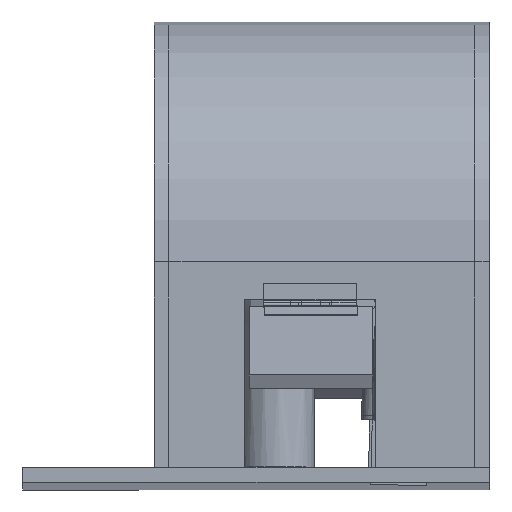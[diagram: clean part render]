
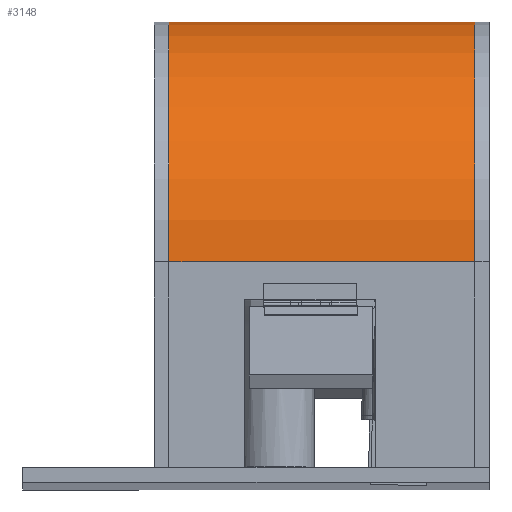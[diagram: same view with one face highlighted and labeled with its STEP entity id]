
A CAD part, front view. The second image highlights one B-rep face of the part: STEP entity #3148.
In plain terms, the highlighted cylindrical face has radius 130 mm (diameter 260 mm), a partial arc.
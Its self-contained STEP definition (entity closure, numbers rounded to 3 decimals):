
#279=CYLINDRICAL_SURFACE('',#4167,130.);
#361=CIRCLE('',#4168,130.);
#362=CIRCLE('',#4169,130.);
#931=ORIENTED_EDGE('',*,*,#1460,.T.);
#932=ORIENTED_EDGE('',*,*,#1417,.F.);
#933=ORIENTED_EDGE('',*,*,#1461,.F.);
#934=ORIENTED_EDGE('',*,*,#1458,.T.);
#1417=EDGE_CURVE('',#1737,#1738,#2004,.T.);
#1458=EDGE_CURVE('',#1769,#1768,#2043,.T.);
#1460=EDGE_CURVE('',#1768,#1738,#361,.T.);
#1461=EDGE_CURVE('',#1769,#1737,#362,.T.);
#1737=VERTEX_POINT('',#6790);
#1738=VERTEX_POINT('',#6792);
#1768=VERTEX_POINT('',#6871);
#1769=VERTEX_POINT('',#6873);
#2004=LINE('',#6791,#2283);
#2043=LINE('',#6872,#2322);
#2283=VECTOR('',#4848,1000.);
#2322=VECTOR('',#4909,1000.);
#2569=EDGE_LOOP('',(#931,#932,#933,#934));
#2818=FACE_BOUND('',#2569,.T.);
#3148=ADVANCED_FACE('',(#2818),#279,.T.);
#4167=AXIS2_PLACEMENT_3D('',#6875,#4911,#4912);
#4168=AXIS2_PLACEMENT_3D('',#6876,#4913,#4914);
#4169=AXIS2_PLACEMENT_3D('',#6877,#4915,#4916);
#4848=DIRECTION('',(0.,-1.,0.));
#4909=DIRECTION('',(0.,-1.,0.));
#4911=DIRECTION('',(0.,-1.,0.));
#4912=DIRECTION('',(0.,0.,-1.));
#4913=DIRECTION('',(0.,1.,0.));
#4914=DIRECTION('',(-1.,0.,0.));
#4915=DIRECTION('',(0.,1.,0.));
#4916=DIRECTION('',(-1.,0.,0.));
#6790=CARTESIAN_POINT('',(175.,163.59,-10.));
#6791=CARTESIAN_POINT('',(175.,163.59,-10.));
#6792=CARTESIAN_POINT('',(175.,0.,-10.));
#6871=CARTESIAN_POINT('',(45.,0.,120.));
#6872=CARTESIAN_POINT('',(45.,163.59,120.));
#6873=CARTESIAN_POINT('',(45.,163.59,120.));
#6875=CARTESIAN_POINT('',(45.,163.59,-10.));
#6876=CARTESIAN_POINT('',(45.,0.,-10.));
#6877=CARTESIAN_POINT('',(45.,163.59,-10.));
